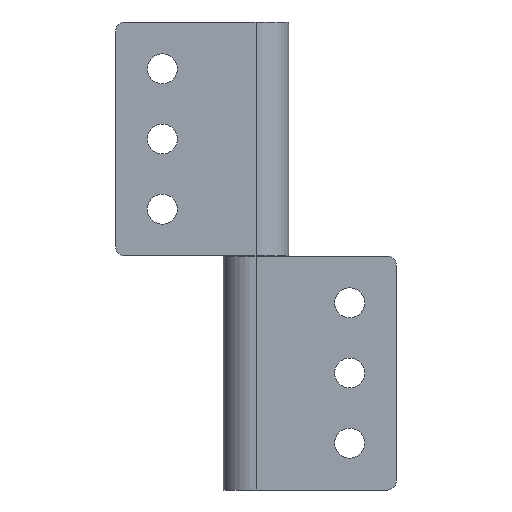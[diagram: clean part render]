
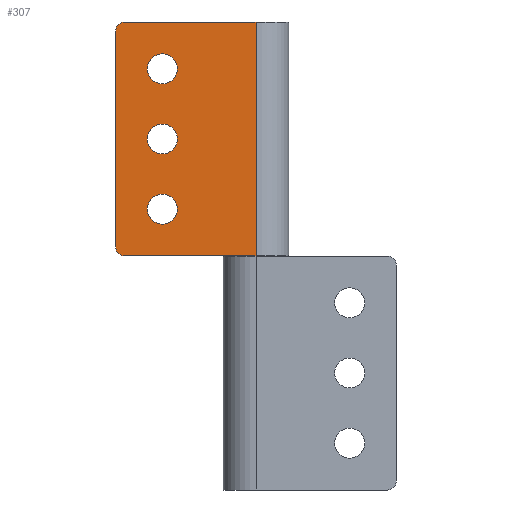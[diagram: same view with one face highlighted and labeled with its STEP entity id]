
A CAD part, front view. The second image highlights one B-rep face of the part: STEP entity #307.
In plain terms, the highlighted planar face has unit normal (0, -1, 0).
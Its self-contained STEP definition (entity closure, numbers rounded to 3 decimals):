
#27 = CARTESIAN_POINT ( 'NONE',  ( 20., -6., -36.8 ) ) ;
#32 = DIRECTION ( 'NONE',  ( 0., 0., 1. ) ) ;
#34 = ORIENTED_EDGE ( 'NONE', *, *, #328, .T. ) ;
#36 = AXIS2_PLACEMENT_3D ( 'NONE', #75, #457, #257 ) ;
#46 = EDGE_LOOP ( 'NONE', ( #1104, #1001 ) ) ;
#63 = EDGE_LOOP ( 'NONE', ( #600, #788 ) ) ;
#65 = LINE ( 'NONE', #364, #773 ) ;
#70 = CIRCLE ( 'NONE', #36, 3.2 ) ;
#75 = CARTESIAN_POINT ( 'NONE',  ( 20., -6., -10. ) ) ;
#76 = AXIS2_PLACEMENT_3D ( 'NONE', #1156, #774, #231 ) ;
#89 = ORIENTED_EDGE ( 'NONE', *, *, #279, .F. ) ;
#111 = DIRECTION ( 'NONE',  ( 0., -1., 0. ) ) ;
#113 = VERTEX_POINT ( 'NONE', #680 ) ;
#132 = EDGE_CURVE ( 'NONE', #193, #636, #134, .T. ) ;
#134 = CIRCLE ( 'NONE', #1003, 3.2 ) ;
#157 = DIRECTION ( 'NONE',  ( 0., 0., -1. ) ) ;
#191 = CARTESIAN_POINT ( 'NONE',  ( 20., -6., -40. ) ) ;
#193 = VERTEX_POINT ( 'NONE', #335 ) ;
#196 = LINE ( 'NONE', #955, #440 ) ;
#213 = AXIS2_PLACEMENT_3D ( 'NONE', #666, #111, #308 ) ;
#216 = CARTESIAN_POINT ( 'NONE',  ( 28., -6., -2. ) ) ;
#225 = CARTESIAN_POINT ( 'NONE',  ( 20., -6., -6.8 ) ) ;
#230 = DIRECTION ( 'NONE',  ( 0., -1., 0. ) ) ;
#231 = DIRECTION ( 'NONE',  ( 0., 0., -1. ) ) ;
#232 = CARTESIAN_POINT ( 'NONE',  ( 20., -6., -13.2 ) ) ;
#233 = VERTEX_POINT ( 'NONE', #225 ) ;
#257 = DIRECTION ( 'NONE',  ( 0., 0., -1. ) ) ;
#272 = CIRCLE ( 'NONE', #213, 3.2 ) ;
#279 = EDGE_CURVE ( 'NONE', #782, #388, #850, .T. ) ;
#282 = VERTEX_POINT ( 'NONE', #620 ) ;
#285 = VECTOR ( 'NONE', #315, 1000. ) ;
#287 = DIRECTION ( 'NONE',  ( 1., 0., 0. ) ) ;
#307 = ADVANCED_FACE ( 'NONE', ( #548, #1076, #638, #467 ), #917, .T. ) ;
#308 = DIRECTION ( 'NONE',  ( 0., 0., -1. ) ) ;
#315 = DIRECTION ( 'NONE',  ( 1., 0., 0. ) ) ;
#328 = EDGE_CURVE ( 'NONE', #981, #1195, #65, .T. ) ;
#335 = CARTESIAN_POINT ( 'NONE',  ( 20., -6., -43.2 ) ) ;
#364 = CARTESIAN_POINT ( 'NONE',  ( 30., -6., -50. ) ) ;
#388 = VERTEX_POINT ( 'NONE', #798 ) ;
#389 = DIRECTION ( 'NONE',  ( 0., -1., 0. ) ) ;
#391 = VECTOR ( 'NONE', #287, 1000. ) ;
#396 = DIRECTION ( 'NONE',  ( 0., 0., -1. ) ) ;
#422 = VERTEX_POINT ( 'NONE', #769 ) ;
#429 = CARTESIAN_POINT ( 'NONE',  ( 0., -6., -50. ) ) ;
#434 = EDGE_CURVE ( 'NONE', #422, #981, #1099, .T. ) ;
#436 = DIRECTION ( 'NONE',  ( 0., -1., 0. ) ) ;
#440 = VECTOR ( 'NONE', #948, 1000. ) ;
#443 = CIRCLE ( 'NONE', #1073, 3.2 ) ;
#457 = DIRECTION ( 'NONE',  ( 0., -1., 0. ) ) ;
#460 = EDGE_CURVE ( 'NONE', #1112, #233, #272, .T. ) ;
#467 = FACE_OUTER_BOUND ( 'NONE', #970, .T. ) ;
#495 = ORIENTED_EDGE ( 'NONE', *, *, #791, .F. ) ;
#499 = CARTESIAN_POINT ( 'NONE',  ( 30., -6., -48. ) ) ;
#504 = EDGE_CURVE ( 'NONE', #713, #282, #1033, .T. ) ;
#528 = CARTESIAN_POINT ( 'NONE',  ( 20., -6., -25. ) ) ;
#548 = FACE_BOUND ( 'NONE', #46, .T. ) ;
#600 = ORIENTED_EDGE ( 'NONE', *, *, #772, .F. ) ;
#604 = DIRECTION ( 'NONE',  ( 0., 0., -1. ) ) ;
#606 = LINE ( 'NONE', #429, #285 ) ;
#609 = DIRECTION ( 'NONE',  ( 0., -1., 0. ) ) ;
#619 = DIRECTION ( 'NONE',  ( 0., 0., -1. ) ) ;
#620 = CARTESIAN_POINT ( 'NONE',  ( 28., -6., 0. ) ) ;
#636 = VERTEX_POINT ( 'NONE', #27 ) ;
#638 = FACE_BOUND ( 'NONE', #63, .T. ) ;
#666 = CARTESIAN_POINT ( 'NONE',  ( 20., -6., -10. ) ) ;
#680 = CARTESIAN_POINT ( 'NONE',  ( 0., -6., -50. ) ) ;
#712 = CIRCLE ( 'NONE', #749, 3.2 ) ;
#713 = VERTEX_POINT ( 'NONE', #883 ) ;
#724 = DIRECTION ( 'NONE',  ( 0., -1., 0. ) ) ;
#729 = CARTESIAN_POINT ( 'NONE',  ( 20., -6., -21.8 ) ) ;
#736 = EDGE_CURVE ( 'NONE', #113, #422, #606, .T. ) ;
#749 = AXIS2_PLACEMENT_3D ( 'NONE', #528, #230, #619 ) ;
#755 = EDGE_CURVE ( 'NONE', #636, #193, #443, .T. ) ;
#769 = CARTESIAN_POINT ( 'NONE',  ( 28., -6., -50. ) ) ;
#772 = EDGE_CURVE ( 'NONE', #233, #1112, #70, .T. ) ;
#773 = VECTOR ( 'NONE', #32, 1000. ) ;
#774 = DIRECTION ( 'NONE',  ( 0., -1., 0. ) ) ;
#782 = VERTEX_POINT ( 'NONE', #729 ) ;
#786 = DIRECTION ( 'NONE',  ( 0., 0., -1. ) ) ;
#788 = ORIENTED_EDGE ( 'NONE', *, *, #460, .F. ) ;
#791 = EDGE_CURVE ( 'NONE', #388, #782, #712, .T. ) ;
#798 = CARTESIAN_POINT ( 'NONE',  ( 20., -6., -28.2 ) ) ;
#802 = EDGE_CURVE ( 'NONE', #1195, #282, #900, .T. ) ;
#804 = CARTESIAN_POINT ( 'NONE',  ( 0., -6., -50. ) ) ;
#831 = ORIENTED_EDGE ( 'NONE', *, *, #736, .T. ) ;
#850 = CIRCLE ( 'NONE', #76, 3.2 ) ;
#867 = CARTESIAN_POINT ( 'NONE',  ( 20., -6., -40. ) ) ;
#883 = CARTESIAN_POINT ( 'NONE',  ( 0., -6., 0. ) ) ;
#900 = CIRCLE ( 'NONE', #1021, 2. ) ;
#917 = PLANE ( 'NONE',  #1047 ) ;
#948 = DIRECTION ( 'NONE',  ( 0., 0., 1. ) ) ;
#955 = CARTESIAN_POINT ( 'NONE',  ( 0., -6., -50. ) ) ;
#968 = DIRECTION ( 'NONE',  ( 0., -1., 0. ) ) ;
#970 = EDGE_LOOP ( 'NONE', ( #34, #1070, #1098, #1043, #831, #1188 ) ) ;
#981 = VERTEX_POINT ( 'NONE', #499 ) ;
#991 = CARTESIAN_POINT ( 'NONE',  ( 30., -6., -2. ) ) ;
#1001 = ORIENTED_EDGE ( 'NONE', *, *, #132, .F. ) ;
#1003 = AXIS2_PLACEMENT_3D ( 'NONE', #191, #609, #604 ) ;
#1021 = AXIS2_PLACEMENT_3D ( 'NONE', #216, #968, #786 ) ;
#1033 = LINE ( 'NONE', #1129, #391 ) ;
#1037 = EDGE_LOOP ( 'NONE', ( #89, #495 ) ) ;
#1043 = ORIENTED_EDGE ( 'NONE', *, *, #1060, .F. ) ;
#1047 = AXIS2_PLACEMENT_3D ( 'NONE', #804, #724, #1105 ) ;
#1060 = EDGE_CURVE ( 'NONE', #113, #713, #196, .T. ) ;
#1062 = AXIS2_PLACEMENT_3D ( 'NONE', #1121, #389, #396 ) ;
#1070 = ORIENTED_EDGE ( 'NONE', *, *, #802, .T. ) ;
#1073 = AXIS2_PLACEMENT_3D ( 'NONE', #867, #436, #157 ) ;
#1076 = FACE_BOUND ( 'NONE', #1037, .T. ) ;
#1098 = ORIENTED_EDGE ( 'NONE', *, *, #504, .F. ) ;
#1099 = CIRCLE ( 'NONE', #1062, 2. ) ;
#1104 = ORIENTED_EDGE ( 'NONE', *, *, #755, .F. ) ;
#1105 = DIRECTION ( 'NONE',  ( 0., 0., -1. ) ) ;
#1112 = VERTEX_POINT ( 'NONE', #232 ) ;
#1121 = CARTESIAN_POINT ( 'NONE',  ( 28., -6., -48. ) ) ;
#1129 = CARTESIAN_POINT ( 'NONE',  ( 0., -6., 0. ) ) ;
#1156 = CARTESIAN_POINT ( 'NONE',  ( 20., -6., -25. ) ) ;
#1188 = ORIENTED_EDGE ( 'NONE', *, *, #434, .T. ) ;
#1195 = VERTEX_POINT ( 'NONE', #991 ) ;
